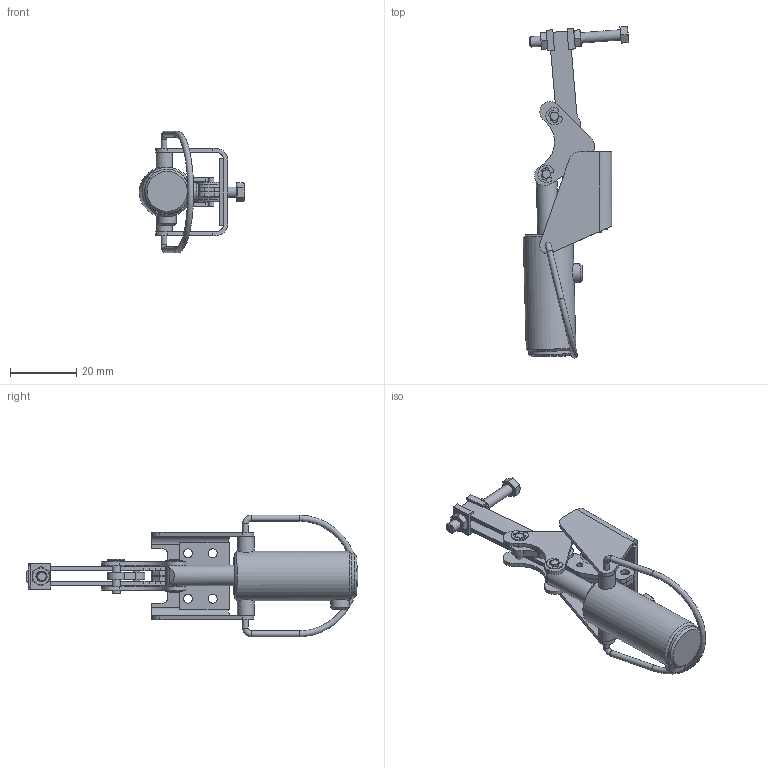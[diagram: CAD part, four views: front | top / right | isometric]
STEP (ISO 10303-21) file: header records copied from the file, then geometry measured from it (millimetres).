
FILE_DESCRIPTION((' '),'2;1');
FILE_NAME('C:\Users\Nick\Desktop\AOV-201\AOV-201 Open.stp','2015-05-22T12:43:38',(' '),(' '),' ','ACIS',' ');
FILE_SCHEMA(('CONFIG_CONTROL_DESIGN'));
Length unit declared in the file: inch
Products named in the file (34): C:\Users\Nick\Desktop\AOV-201\AOV-201 Open.stp; Body1; Body2; Body3; Body4; Body5; Body6; Body7; Body8; Body9; Body10; Body11; Body12; Body13; Body14; Body15; Body16; Body17; Body18; Body19; Body20; Body21; Body22; Body23; Body24; Body25; Body26; Body27; Body28; Body29; Body30; Body31; Body32; Body33
Assembly tree (33 placements, depth 2):
  C:\Users\Nick\Desktop\AOV-201\AOV-201 Open.stp
    Body1
    Body2
    Body3
    Body4
    Body5
    Body6
    Body7
    Body8
    Body9
    Body10
    Body11
    Body12
    Body13
    Body14
    Body15
    Body16
    Body17
    Body18
    Body19
    Body20
    Body21
    Body22
    Body23
    Body24
    Body25
    Body26
    Body27
    Body28
    Body29
    Body30
    Body31
    Body32
    Body33
Bounding box: 31.88 x 100.22 x 36.72 mm (x, y, z)
Volume: 8780.2 mm3; surface area: 14190.5 mm2
Topology: 33 solids, 33 shells, 438 faces, 1062 edges, 697 vertices
Faces by surface type: plane 218, cylinder 170, cone 40, torus 9, bspline 1
Full cylindrical faces by diameter (mm): 1.565 x1, 1.77 x4, 1.84 x1, 1.87 x8, 1.875 x6, 1.88 x2, 2.187 x2, 2.5 x3, 2.52 x2, 2.66 x10, 3.125 x1, 3.28 x2, 3.43 x4, 4.375 x1, 5 x2, 5.625 x3, 6.25 x2, 13.125 x1, 13.4 x1, 15 x1
Entity records: 17851 total; most frequent: CARTESIAN_POINT 2919, DIRECTION 2244, ORIENTED_EDGE 1924, EDGE_CURVE 962, AXIS2_PLACEMENT_3D 874, VERTEX_POINT 671, EDGE_LOOP 583, VECTOR 496
